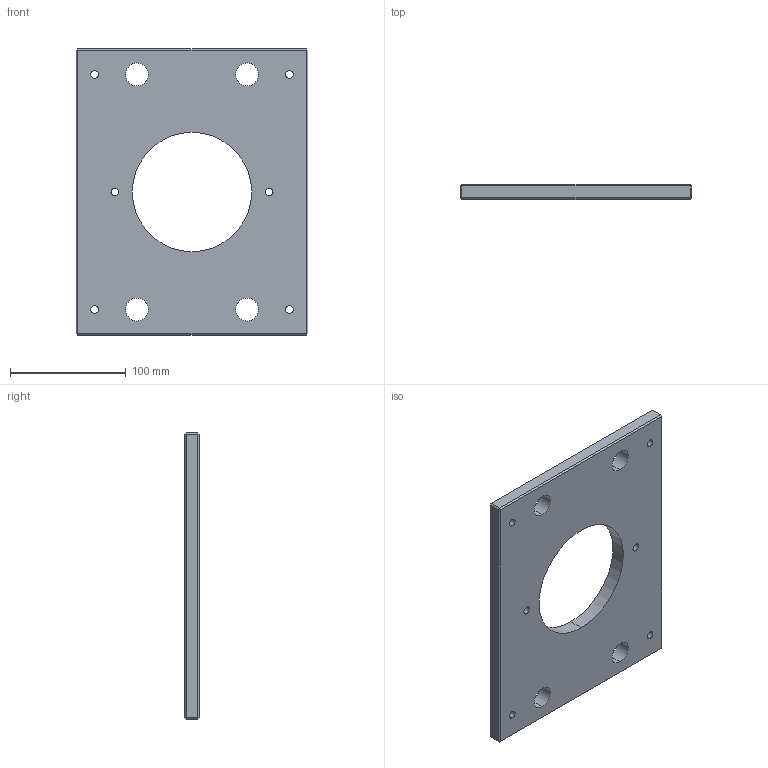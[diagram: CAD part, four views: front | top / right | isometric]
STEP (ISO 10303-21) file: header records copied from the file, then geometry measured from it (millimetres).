
FILE_DESCRIPTION (( 'STEP AP214' ), '1' );
FILE_NAME ('ME-0619-CH-1008.STEP', '2020-02-12T07:50:08', ( '' ), ( '' ), 'SwSTEP 2.0', 'SolidWorks 2018', '' );
FILE_SCHEMA (( 'AUTOMOTIVE_DESIGN' ));
Length unit declared in the file: inch
Products named in the file (1): ME-0619-CH-1008
Bounding box: 200.03 x 12.7 x 247.65 mm (x, y, z)
Volume: 501698.4 mm3; surface area: 98198.1 mm2
Topology: 1 solids, 1 shells, 60 faces, 138 edges, 80 vertices
Faces by surface type: plane 26, cylinder 22, cone 12
Entity records: 1754 total; most frequent: DIRECTION 316, CARTESIAN_POINT 279, ORIENTED_EDGE 276, EDGE_CURVE 138, AXIS2_PLACEMENT_3D 117, EDGE_LOOP 82, VECTOR 82, LINE 82
